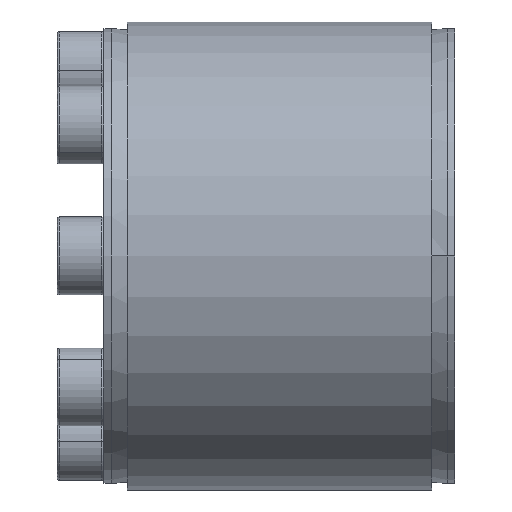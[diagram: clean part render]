
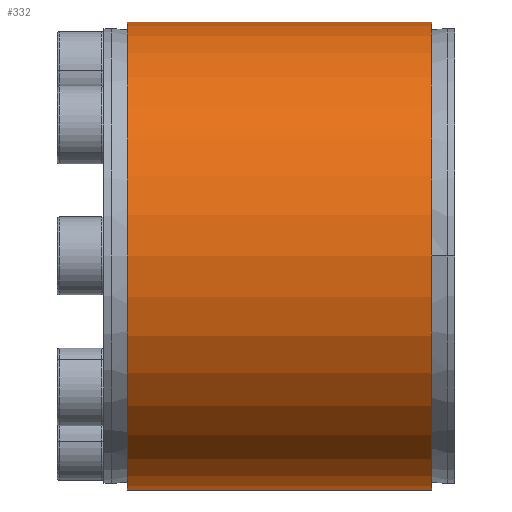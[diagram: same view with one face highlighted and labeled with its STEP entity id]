
A CAD part, front view. The second image highlights one B-rep face of the part: STEP entity #332.
In plain terms, the highlighted cylindrical face has radius 30 mm (diameter 60 mm), a partial arc.
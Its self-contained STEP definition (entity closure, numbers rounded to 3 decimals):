
#215 = EDGE_LOOP ( 'NONE', ( #7544, #1501, #3290, #3260 ) ) ;
#332 = ADVANCED_FACE ( 'NONE', ( #2674 ), #2569, .T. ) ;
#846 = VERTEX_POINT ( 'NONE', #6438 ) ;
#890 = DIRECTION ( 'NONE',  ( 0., 0., -1. ) ) ;
#896 = DIRECTION ( 'NONE',  ( -1., 0., 0. ) ) ;
#905 = CARTESIAN_POINT ( 'NONE',  ( 21.732, 0., 0. ) ) ;
#1437 = CARTESIAN_POINT ( 'NONE',  ( -17.268, 0., 30. ) ) ;
#1501 = ORIENTED_EDGE ( 'NONE', *, *, #5507, .T. ) ;
#1521 = LINE ( 'NONE', #6809, #2946 ) ;
#1544 = VERTEX_POINT ( 'NONE', #1437 ) ;
#1799 = CIRCLE ( 'NONE', #3808, 30. ) ;
#2045 = DIRECTION ( 'NONE',  ( -1., 0., 0. ) ) ;
#2057 = CARTESIAN_POINT ( 'NONE',  ( -43.29, 0., 30. ) ) ;
#2569 = CYLINDRICAL_SURFACE ( 'NONE', #3135, 30. ) ;
#2572 = CIRCLE ( 'NONE', #7169, 30. ) ;
#2674 = FACE_OUTER_BOUND ( 'NONE', #215, .T. ) ;
#2760 = LINE ( 'NONE', #2057, #4366 ) ;
#2799 = DIRECTION ( 'NONE',  ( 0., 0., -1. ) ) ;
#2946 = VECTOR ( 'NONE', #6417, 1000. ) ;
#3135 = AXIS2_PLACEMENT_3D ( 'NONE', #6462, #6658, #2799 ) ;
#3260 = ORIENTED_EDGE ( 'NONE', *, *, #6066, .F. ) ;
#3290 = ORIENTED_EDGE ( 'NONE', *, *, #5705, .F. ) ;
#3808 = AXIS2_PLACEMENT_3D ( 'NONE', #7568, #7541, #7436 ) ;
#3942 = VERTEX_POINT ( 'NONE', #5819 ) ;
#4291 = VERTEX_POINT ( 'NONE', #6566 ) ;
#4366 = VECTOR ( 'NONE', #2045, 1000. ) ;
#5507 = EDGE_CURVE ( 'NONE', #3942, #1544, #2760, .T. ) ;
#5559 = EDGE_CURVE ( 'NONE', #846, #3942, #2572, .T. ) ;
#5705 = EDGE_CURVE ( 'NONE', #4291, #1544, #1799, .T. ) ;
#5819 = CARTESIAN_POINT ( 'NONE',  ( 21.732, 0., 30. ) ) ;
#6066 = EDGE_CURVE ( 'NONE', #846, #4291, #1521, .T. ) ;
#6417 = DIRECTION ( 'NONE',  ( -1., 0., 0. ) ) ;
#6438 = CARTESIAN_POINT ( 'NONE',  ( 21.732, 0., -30. ) ) ;
#6462 = CARTESIAN_POINT ( 'NONE',  ( -43.29, 0., 0. ) ) ;
#6566 = CARTESIAN_POINT ( 'NONE',  ( -17.268, 0., -30. ) ) ;
#6658 = DIRECTION ( 'NONE',  ( -1., 0., 0. ) ) ;
#6809 = CARTESIAN_POINT ( 'NONE',  ( -43.29, 0., -30. ) ) ;
#7169 = AXIS2_PLACEMENT_3D ( 'NONE', #905, #896, #890 ) ;
#7436 = DIRECTION ( 'NONE',  ( 0., 0., -1. ) ) ;
#7541 = DIRECTION ( 'NONE',  ( -1., 0., 0. ) ) ;
#7544 = ORIENTED_EDGE ( 'NONE', *, *, #5559, .T. ) ;
#7568 = CARTESIAN_POINT ( 'NONE',  ( -17.268, 0., 0. ) ) ;
